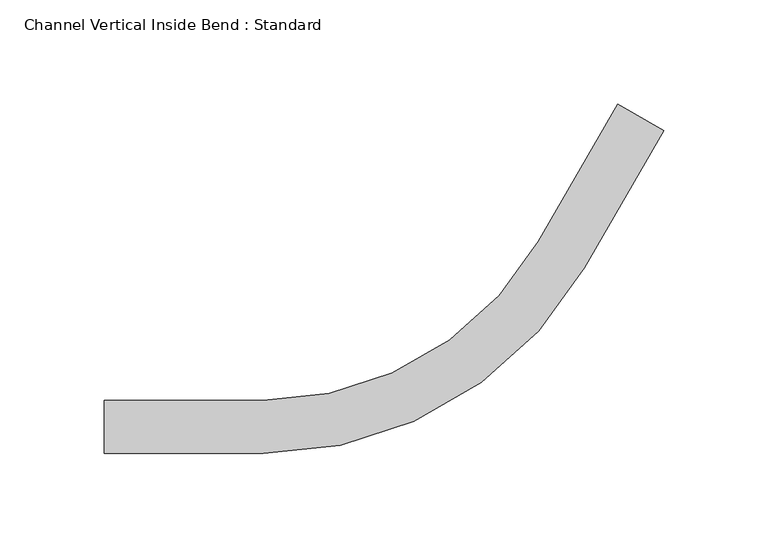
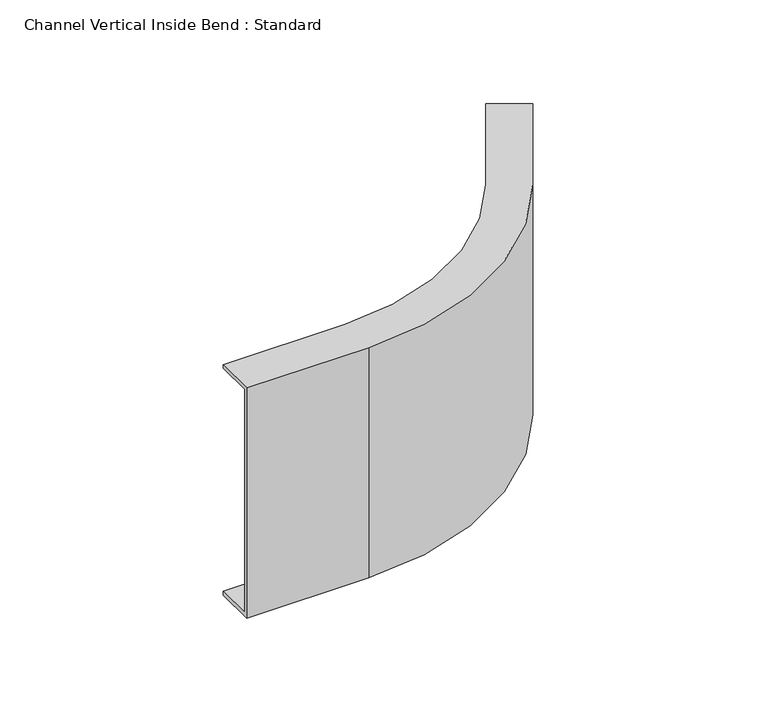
"""IFC4 building model written with IfcOpenShell, lengths in millimetres: cable carrier fitting geometry, Channel Vertical Inside Bend : Standard."""

from ifc_helpers import new_model, si_unit, frame, origin, place, context, project, spatial, polyline, circle_curve, source, transform, mapped, element, save
from ifc_brep_helpers import plane_surface, cylinder_surface, revolved_surface, advanced_brep


def channel_vertical_inside_bend_standard_66c3744e(model_context):
    return source(origin(), model_context, "Body", "AdvancedBrep", [
        advanced_brep(
        [(-171.5205294, 12.7, 76.2), (-171.5205294, 12.7, 73.66), (-171.5205294, -10.16, 73.66), (-171.5205294, -10.16, -73.66), (-171.5205294, 12.7, -73.66), (-171.5205294, 12.7, -76.2), (-171.5205294, -12.7, -76.2), (-171.5205294, -12.7, 76.2), (74.7617421, 154.8911358, 76.2), (96.7587873, 142.1911358, 76.2), (96.7587873, 142.1911358, -76.2), (74.7617421, 154.8911358, -76.2), (74.7617421, 154.8911358, -73.66), (94.5590828, 143.4611358, -73.66), (94.5590828, 143.4611358, 73.66), (74.7617421, 154.8911358, 73.66), (-95.3205294, -12.7, 76.2), (58.6587873, 76.2, 76.2), (36.6617421, 88.9, 76.2), (-95.3205294, 12.7, 76.2), (-95.3205294, -12.7, -76.2), (-95.3205294, 12.7, -76.2), (36.6617421, 88.9, -76.2), (58.6587873, 76.2, -76.2), (-95.3205294, 12.7, -73.66), (-95.3205294, -10.16, -73.66), (56.4590828, 77.47, -73.66), (36.6617421, 88.9, -73.66), (-95.3205294, -10.16, 73.66), (-95.3205294, 12.7, 73.66), (36.6617421, 88.9, 73.66), (56.4590828, 77.47, 73.66)],
        [
            (0, 1),
            (1, 2),
            (2, 3),
            (3, 4),
            (4, 5),
            (5, 6),
            (6, 7),
            (7, 0),
            (8, 9),
            (9, 10),
            (10, 11),
            (11, 12),
            (12, 13),
            (13, 14),
            (14, 15),
            (15, 8),
            (7, 16),
            (16, 17, circle_curve(frame((-95.3205294, 165.1, 76.2), z_axis=(0.0, 0.0, 1.0), x_axis=(0.0, -1.0, 0.0)), 177.8)),
            (17, 9),
            (8, 18),
            (18, 19, circle_curve(frame((-95.3205294, 165.1, 76.2), z_axis=(0.0, 0.0, -1.0), x_axis=(0.0, -1.0, 0.0)), 152.4)),
            (19, 0),
            (6, 20),
            (20, 16),
            (5, 21),
            (21, 22, circle_curve(frame((-95.3205294, 165.1, -76.2), z_axis=(0.0, 0.0, 1.0), x_axis=(0.0, -1.0, 0.0)), 152.4)),
            (22, 11),
            (10, 23),
            (23, 20, circle_curve(frame((-95.3205294, 165.1, -76.2), z_axis=(0.0, 0.0, -1.0), x_axis=(0.0, -1.0, 0.0)), 177.8)),
            (4, 24),
            (24, 21),
            (3, 25),
            (25, 26, circle_curve(frame((-95.3205294, 165.1, -73.66), z_axis=(0.0, 0.0, 1.0), x_axis=(0.0, -1.0, 0.0)), 175.26)),
            (26, 13),
            (12, 27),
            (27, 24, circle_curve(frame((-95.3205294, 165.1, -73.66), z_axis=(0.0, 0.0, -1.0), x_axis=(0.0, -1.0, 0.0)), 152.4)),
            (2, 28),
            (28, 25),
            (1, 29),
            (29, 30, circle_curve(frame((-95.3205294, 165.1, 73.66), z_axis=(0.0, 0.0, 1.0), x_axis=(0.0, -1.0, 0.0)), 152.4)),
            (30, 15),
            (14, 31),
            (31, 28, circle_curve(frame((-95.3205294, 165.1, 73.66), z_axis=(0.0, 0.0, -1.0), x_axis=(0.0, -1.0, 0.0)), 175.26)),
            (19, 29),
            (23, 17),
            (27, 22),
            (31, 26),
            (18, 30),
        ],
        [
            plane_surface(frame((-171.5205294, 0.0, 0.0), z_axis=(-1.0, 0.0, 0.0), x_axis=(0.0, 0.0, 1.0))),
            plane_surface(frame((85.7602647, 148.5411358, 0.0), z_axis=(0.5000000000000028, 0.866025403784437, 0.0), x_axis=(0.0, 0.0, 1.0))),
            plane_surface(frame((-171.5205294, -12.7, 76.2), z_axis=(0.0, 0.0, 1.0), x_axis=(1.0, 0.0, 0.0))),
            plane_surface(frame((-171.5205294, -12.7, -76.2), z_axis=(0.0, -1.0, 0.0), x_axis=(1.0, 0.0, 0.0))),
            plane_surface(frame((-171.5205294, 12.7, -76.2), z_axis=(0.0, 0.0, -1.0), x_axis=(1.0, 0.0, 0.0))),
            plane_surface(frame((-171.5205294, 12.7, -73.66), z_axis=(0.0, 1.0, 0.0), x_axis=(1.0, 0.0, 0.0))),
            plane_surface(frame((-171.5205294, -10.16, -73.66), z_axis=(0.0, 0.0, 1.0), x_axis=(1.0, 0.0, 0.0))),
            plane_surface(frame((-171.5205294, -10.16, 73.66), z_axis=(0.0, 1.0, 0.0), x_axis=(1.0, 0.0, 0.0))),
            plane_surface(frame((-171.5205294, 12.7, 73.66), z_axis=(0.0, 0.0, -1.0), x_axis=(1.0, 0.0, 0.0))),
            plane_surface(frame((-171.5205294, 12.7, 76.2), z_axis=(0.0, 1.0, 0.0), x_axis=(1.0, 0.0, 0.0))),
            cylinder_surface(frame((-95.3205294, 165.1, 0.0), z_axis=(0.0, 0.0, 1.0), x_axis=(0.0, -1.0, 0.0)), 177.8),
            revolved_surface(polyline([(-95.3205294, 12.699999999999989, -73.66), (-95.3205294, 12.699999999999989, -76.2)]), (-95.3205294, 165.1, 0.0), (0.0, 0.0, 1.0)),
            revolved_surface(polyline([(-95.3205294, -10.159999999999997, 73.66), (-95.3205294, -10.159999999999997, -73.66)]), (-95.3205294, 165.1, 0.0), (0.0, 0.0, 1.0)),
            revolved_surface(polyline([(-95.3205294, 12.699999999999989, 76.2), (-95.3205294, 12.699999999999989, 73.66)]), (-95.3205294, 165.1, 0.0), (0.0, 0.0, 1.0)),
            plane_surface(frame((58.6587873, 76.2, -76.2), z_axis=(0.866025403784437, -0.5000000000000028, 0.0), x_axis=(0.5000000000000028, 0.866025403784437, 0.0))),
            plane_surface(frame((36.6617421, 88.9, -73.66), z_axis=(-0.866025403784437, 0.500000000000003, 0.0), x_axis=(0.500000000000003, 0.866025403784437, 0.0))),
            plane_surface(frame((56.4590828, 77.47, 73.66), z_axis=(-0.866025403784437, 0.5000000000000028, 0.0), x_axis=(0.5000000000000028, 0.866025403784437, 0.0))),
            plane_surface(frame((36.6617421, 88.9, 76.2), z_axis=(-0.866025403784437, 0.500000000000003, 0.0), x_axis=(0.500000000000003, 0.866025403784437, 0.0))),
        ],
        [
            (0, [[1, 2, 3, 4, 5, 6, 7, 8]]),
            (1, [[9, 10, 11, 12, 13, 14, 15, 16]]),
            (2, [[-8, 17, 18, 19, -9, 20, 21, 22]]),
            (3, [[-7, 23, 24, -17]]),
            (4, [[-6, 25, 26, 27, -11, 28, 29, -23]]),
            (5, [[-5, 30, 31, -25]]),
            (6, [[-4, 32, 33, 34, -13, 35, 36, -30]]),
            (7, [[-3, 37, 38, -32]]),
            (8, [[-2, 39, 40, 41, -15, 42, 43, -37]]),
            (9, [[-1, -22, 44, -39]]),
            (10, [[-18, -24, -29, 45]]),
            (11, [[-26, -31, -36, 46]]),
            (12, [[-33, -38, -43, 47]]),
            (13, [[-40, -44, -21, 48]]),
            (14, [[-45, -28, -10, -19]]),
            (15, [[-46, -35, -12, -27]]),
            (16, [[-47, -42, -14, -34]]),
            (17, [[-48, -20, -16, -41]]),
        ],
    ),
    ])


if __name__ == "__main__":
    model = new_model("IFC4")
    model_context = context("Model", 3, world=origin())
    ifc_project = project(units=[si_unit("LENGTHUNIT", "METRE", prefix="MILLI")], contexts=[model_context])
    site = spatial("IfcSite", under=ifc_project)
    building = spatial("IfcBuilding", under=site)
    placement = place(None, origin())
    channel_vertical_inside_bend_standard_shape = channel_vertical_inside_bend_standard_66c3744e(model_context)
    element("IfcCableCarrierFitting", 1, ObjectType="Channel Vertical Inside Bend : Standard", at=placement, inside=building, context=model_context, shape_type="MappedRepresentation", body=[
        mapped(channel_vertical_inside_bend_standard_shape, transform((0.0, 0.0, 0.0), x_axis=(1.0, 0.0, 0.0), y_axis=(0.0, 1.0, 0.0), z_axis=(0.0, 0.0, 1.0))),
    ])
    save(model, "model.ifc")
